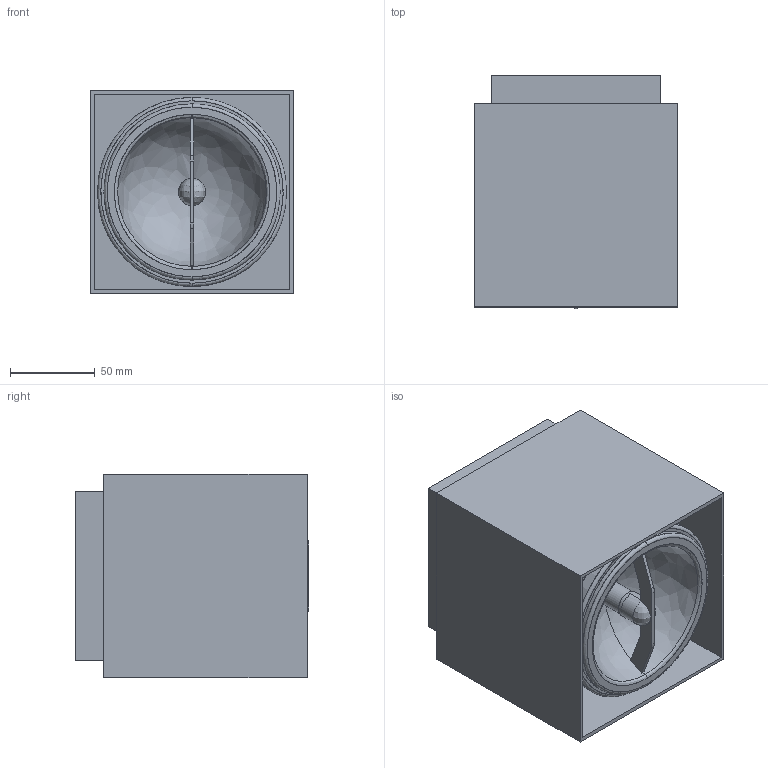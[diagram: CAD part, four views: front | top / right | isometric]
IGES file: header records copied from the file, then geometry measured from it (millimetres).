
Start section: SolidWorks IGES file using analytic representation for surfaces
Global section: file name: C:\Users\tungari.NEMOLIGHTING\Desktop\3D\CEILING\3D_CUBO_CEILING_G53\DEF\3D_CUBO_CEILING_G53.IGS; native system: SolidWorks 2016; preprocessor: SolidWorks 2016; author: tungari; date: 180316.111322; units: millimetre
Bounding box: 120 x 137.86 x 120 mm (x, y, z)
Surface area: 174218.5 mm2 (no closed solid volume)
Topology: 0 solids, 0 shells, 133 faces, 1944 edges, 1944 vertices
Faces by surface type: bspline 92, revolution 41
